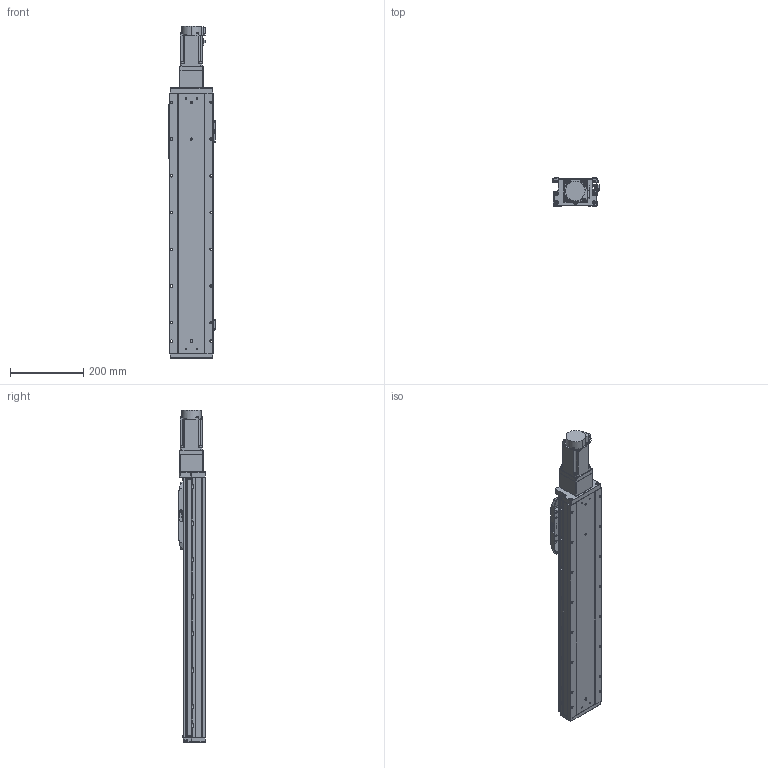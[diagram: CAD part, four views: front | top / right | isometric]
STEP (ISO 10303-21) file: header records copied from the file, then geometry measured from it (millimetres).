
FILE_DESCRIPTION (( 'STEP AP203' ), '1' );
FILE_NAME ('GTH12-500-BC-M40-C4.step', '2022-09-23T01:14:57', ( '微软用户' ), ( '微软中国' ), 'SwSTEP 2.0', 'SolidWorks 2020', '' );
FILE_SCHEMA (( 'CONFIG_CONTROL_DESIGN' ));
Length unit declared in the file: millimetre
Products named in the file (19): CTHA86-027; GTH120-004; GTH50-023; hg-kn43j_-s100_; GTH120-013; GTH50-024; GTH12-500-BC-M40-C4; GBT 70.1-M3℅6; GBT96.1-2002 3×0.8; GBT 70.1-M5×16; BTH-M3X5X6; GTH120-001_500; GBT 70.3-M3℅8; CTHA86-006-1_CTHA86-006-2; GTH120-003; GTH80-022; CTHA86-013; GTH120-006; GTH80-028
Assembly tree (62 placements, depth 2):
  GTH12-500-BC-M40-C4
    GTH120-001_500
    GTH120-003
    GTH120-006
    GTH120-004
    GTH120-013
    GBT 70.1-M3℅6  x14
    GBT 70.1-M5×16  x10
    GBT 70.3-M3℅8  x6
    GTH80-022
    GTH80-028  x2
    GTH50-023  x3
    GTH50-024  x3
    GBT96.1-2002 3×0.8  x6
    BTH-M3X5X6  x8
    CTHA86-006-1_CTHA86-006-2
    CTHA86-013
    CTHA86-027
    hg-kn43j_-s100_
Bounding box: 125.7 x 76 x 903.7 mm (x, y, z)
Volume: 5702801.4 mm3; surface area: 550985.2 mm2
Topology: 64 solids, 64 shells, 2441 faces, 5652 edges, 3443 vertices
Faces by surface type: plane 1248, cylinder 688, cone 327, torus 170, sphere 8
Entity records: 43577 total; most frequent: DIRECTION 7274, CARTESIAN_POINT 6984, ORIENTED_EDGE 6686, EDGE_CURVE 3343, AXIS2_PLACEMENT_3D 2542, VECTOR 2190, LINE 2190, VERTEX_POINT 2102
